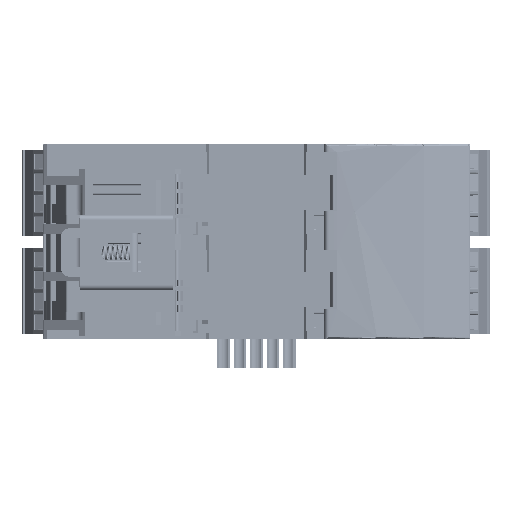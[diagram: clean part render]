
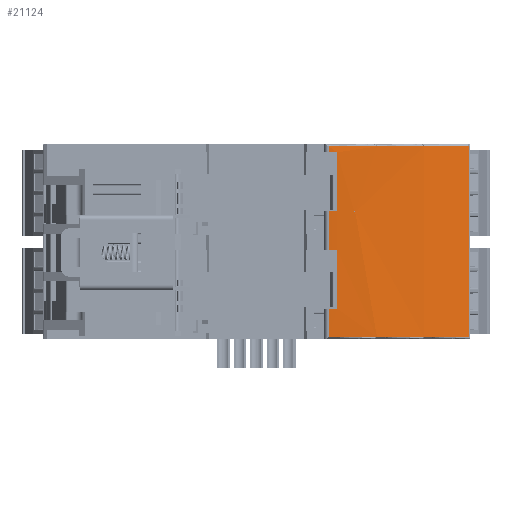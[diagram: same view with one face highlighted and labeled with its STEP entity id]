
A CAD part, front view. The second image highlights one B-rep face of the part: STEP entity #21124.
In plain terms, the highlighted cylindrical face has radius 80 mm (diameter 160 mm), a partial arc.
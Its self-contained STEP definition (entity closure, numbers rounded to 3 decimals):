
#21124=ADVANCED_FACE('',(#114370,#114372),#114374,.T.);
#114370=FACE_BOUND('',#114371,.T.);
#114371=EDGE_LOOP('',(#191928,#191929,#191930,#191931,#191932,#191933,#191934,#191935,
#191936,#191937,#191938,#191939));
#114372=FACE_BOUND('',#114373,.T.);
#114373=EDGE_LOOP('',(#191940,#191941,#191942));
#114374=CYLINDRICAL_SURFACE('',#114375,80.);
#114375=AXIS2_PLACEMENT_3D('',#114376,#114377,#114378);
#114376=CARTESIAN_POINT('',(13.5,75.75,23.85));
#114377=DIRECTION('',(0.,0.,1.));
#114378=DIRECTION('',(1.,0.,0.));
#191928=ORIENTED_EDGE('',*,*,#251350,.F.);
#191929=ORIENTED_EDGE('',*,*,#249686,.T.);
#191930=ORIENTED_EDGE('',*,*,#249684,.T.);
#191931=ORIENTED_EDGE('',*,*,#248925,.F.);
#191932=ORIENTED_EDGE('',*,*,#248912,.T.);
#191933=ORIENTED_EDGE('',*,*,#248956,.F.);
#191934=ORIENTED_EDGE('',*,*,#251352,.F.);
#191935=ORIENTED_EDGE('',*,*,#251353,.T.);
#191936=ORIENTED_EDGE('',*,*,#251354,.F.);
#191937=ORIENTED_EDGE('',*,*,#251355,.F.);
#191938=ORIENTED_EDGE('',*,*,#250002,.F.);
#191939=ORIENTED_EDGE('',*,*,#249999,.T.);
#191940=ORIENTED_EDGE('',*,*,#248959,.F.);
#191941=ORIENTED_EDGE('',*,*,#248958,.T.);
#191942=ORIENTED_EDGE('',*,*,#248905,.F.);
#248905=EDGE_CURVE('',#280542,#280544,#280545,.T.);
#248912=EDGE_CURVE('',#280553,#280551,#280554,.T.);
#248925=EDGE_CURVE('',#280553,#280575,#280576,.T.);
#248956=EDGE_CURVE('',#280623,#280551,#280625,.T.);
#248958=EDGE_CURVE('',#280626,#280544,#280628,.T.);
#248959=EDGE_CURVE('',#280626,#280542,#280629,.T.);
#249684=EDGE_CURVE('',#281805,#280575,#281806,.T.);
#249686=EDGE_CURVE('',#281808,#281805,#281809,.T.);
#249999=EDGE_CURVE('',#282231,#282232,#282233,.T.);
#250002=EDGE_CURVE('',#282231,#282236,#282237,.T.);
#251350=EDGE_CURVE('',#281808,#282232,#284398,.T.);
#251352=EDGE_CURVE('',#284400,#280623,#284401,.T.);
#251353=EDGE_CURVE('',#284400,#284402,#284403,.T.);
#251354=EDGE_CURVE('',#284404,#284402,#284405,.T.);
#251355=EDGE_CURVE('',#282236,#284404,#284406,.T.);
#280542=VERTEX_POINT('',#337213);
#280544=VERTEX_POINT('',#337217);
#280545=LINE('',#337218,#337219);
#280551=VERTEX_POINT('',#337236);
#280553=VERTEX_POINT('',#337240);
#280554=LINE('',#337241,#337242);
#280575=VERTEX_POINT('',#337288);
#280576=CIRCLE('',#337289,80.);
#280623=VERTEX_POINT('',#337399);
#280625=CIRCLE('',#337404,80.);
#280626=VERTEX_POINT('',#337408);
#280628=CIRCLE('',#337412,80.);
#280629=(BOUNDED_CURVE()B_SPLINE_CURVE(3,
(#337416,#337417,#337418,#337419),
.UNSPECIFIED.,.F.,.F.)B_SPLINE_CURVE_WITH_KNOTS((4,4),
(0.,1.),
.UNSPECIFIED.)CURVE()GEOMETRIC_REPRESENTATION_ITEM()RATIONAL_B_SPLINE_CURVE((1.,
1.,1.,1.))REPRESENTATION_ITEM(''));
#281805=VERTEX_POINT('',#340306);
#281806=LINE('',#340307,#340308);
#281808=VERTEX_POINT('',#340358);
#281809=CIRCLE('',#340359,80.);
#282231=VERTEX_POINT('',#341507);
#282232=VERTEX_POINT('',#341508);
#282233=CIRCLE('',#341509,80.);
#282236=VERTEX_POINT('',#341571);
#282237=LINE('',#341572,#341573);
#284398=LINE('',#346711,#346712);
#284400=VERTEX_POINT('',#346717);
#284401=LINE('',#346718,#346719);
#284402=VERTEX_POINT('',#346721);
#284403=CIRCLE('',#346722,80.);
#284404=VERTEX_POINT('',#346726);
#284405=LINE('',#346727,#346728);
#284406=CIRCLE('',#346730,80.);
#337213=CARTESIAN_POINT('',(22.9,-3.696,29.4));
#337217=CARTESIAN_POINT('',(22.9,-3.696,29.7));
#337218=CARTESIAN_POINT('',(22.9,-3.696,29.4));
#337219=VECTOR('',#337220,1.);
#337220=DIRECTION('',(0.,0.,1.));
#337236=CARTESIAN_POINT('',(18.7,-4.081,29.7));
#337240=CARTESIAN_POINT('',(18.7,-4.081,43.3));
#337241=CARTESIAN_POINT('',(18.7,-4.081,43.3));
#337242=VECTOR('',#337243,1.);
#337243=DIRECTION('',(0.,0.,-1.));
#337288=CARTESIAN_POINT('',(16.741,-4.184,43.3));
#337289=AXIS2_PLACEMENT_3D('',#337290,#337291,#337292);
#337290=CARTESIAN_POINT('',(13.5,75.75,43.3));
#337291=DIRECTION('',(0.,0.,-1.));
#337292=DIRECTION('',(0.065,-0.998,0.));
#337399=CARTESIAN_POINT('',(16.741,-4.184,29.7));
#337404=AXIS2_PLACEMENT_3D('',#337405,#337406,#337407);
#337405=CARTESIAN_POINT('',(13.5,75.75,29.7));
#337406=DIRECTION('',(0.,0.,1.));
#337407=DIRECTION('',(0.041,-0.999,0.));
#337408=CARTESIAN_POINT('',(22.6,-3.731,29.7));
#337412=AXIS2_PLACEMENT_3D('',#337413,#337414,#337415);
#337413=CARTESIAN_POINT('',(13.5,75.75,29.7));
#337414=DIRECTION('',(0.,0.,1.));
#337415=DIRECTION('',(0.114,-0.994,0.));
#337416=CARTESIAN_POINT('',(22.6,-3.731,29.7));
#337417=CARTESIAN_POINT('',(22.7,-3.719,29.6));
#337418=CARTESIAN_POINT('',(22.8,-3.708,29.5));
#337419=CARTESIAN_POINT('',(22.9,-3.696,29.4));
#340306=CARTESIAN_POINT('',(16.741,-4.184,44.7));
#340307=CARTESIAN_POINT('',(16.741,-4.184,44.7));
#340308=VECTOR('',#340309,1.);
#340309=DIRECTION('',(0.,0.,-1.));
#340358=CARTESIAN_POINT('',(49.223,4.169,44.7));
#340359=AXIS2_PLACEMENT_3D('',#340360,#340361,#340362);
#340360=CARTESIAN_POINT('',(13.5,75.75,44.7));
#340361=DIRECTION('',(0.,0.,-1.));
#340362=DIRECTION('',(0.447,-0.895,0.));
#341507=CARTESIAN_POINT('',(16.741,-4.184,0.5));
#341508=CARTESIAN_POINT('',(49.223,4.169,0.5));
#341509=AXIS2_PLACEMENT_3D('',#341510,#341511,#341512);
#341510=CARTESIAN_POINT('',(13.5,75.75,0.5));
#341511=DIRECTION('',(0.,0.,1.));
#341512=DIRECTION('',(0.041,-0.999,0.));
#341571=CARTESIAN_POINT('',(16.741,-4.184,7.1));
#341572=CARTESIAN_POINT('',(16.741,-4.184,0.5));
#341573=VECTOR('',#341574,1.);
#341574=DIRECTION('',(0.,0.,1.));
#346711=CARTESIAN_POINT('',(49.223,4.169,44.7));
#346712=VECTOR('',#346713,1.);
#346713=DIRECTION('',(0.,0.,-1.));
#346717=CARTESIAN_POINT('',(16.741,-4.184,20.7));
#346718=CARTESIAN_POINT('',(16.741,-4.184,20.7));
#346719=VECTOR('',#346720,1.);
#346720=DIRECTION('',(0.,0.,1.));
#346721=CARTESIAN_POINT('',(18.7,-4.081,20.7));
#346722=AXIS2_PLACEMENT_3D('',#346723,#346724,#346725);
#346723=CARTESIAN_POINT('',(13.5,75.75,20.7));
#346724=DIRECTION('',(0.,0.,1.));
#346725=DIRECTION('',(0.041,-0.999,0.));
#346726=CARTESIAN_POINT('',(18.7,-4.081,7.1));
#346727=CARTESIAN_POINT('',(18.7,-4.081,7.1));
#346728=VECTOR('',#346729,1.);
#346729=DIRECTION('',(0.,0.,1.));
#346730=AXIS2_PLACEMENT_3D('',#346731,#346732,#346733);
#346731=CARTESIAN_POINT('',(13.5,75.75,7.1));
#346732=DIRECTION('',(0.,0.,1.));
#346733=DIRECTION('',(0.041,-0.999,0.));
